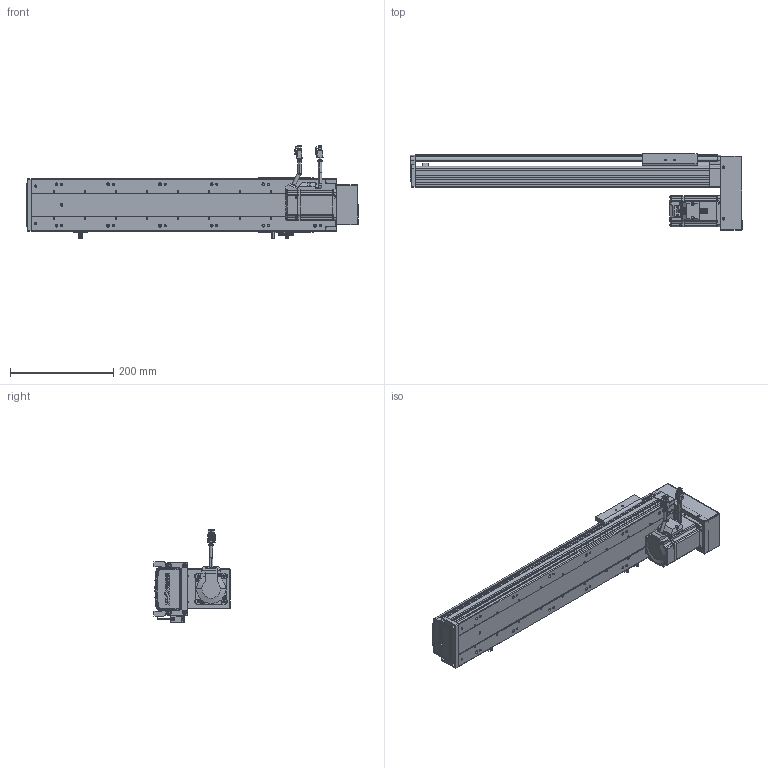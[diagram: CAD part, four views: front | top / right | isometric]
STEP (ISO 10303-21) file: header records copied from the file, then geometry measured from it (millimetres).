
FILE_DESCRIPTION (( 'STEP AP203' ), '1' );
FILE_NAME ('RY100S-L1620-300-BK(15双轨).SLDASM_400.step', '2021-02-20T08:23:01', ( '盈信电脑' ), ( '东莞市道滘镇水果街19号' ), 'SwSTEP 2.0', 'SolidWorks 2012', '' );
FILE_SCHEMA (( 'CONFIG_CONTROL_DESIGN' ));
Length unit declared in the file: millimetre
Products named in the file (26): RY100S下折电机安装板（15双轨）; RY100S-狟殏萇儂郪; RY100S-L1620-300-BK(15邧寢).SLDASM_400; 肮祭湍5M遵15笚酗260; 7; 侂狟200W萇儂; 6; 4; 5; 3; 2; RY100S狟殏萇儂欶(15邧寢); 1; RY80肮祭湍覃踡啣; 3M30喘15遵; RY80肮祭湍芢雄輸; RY100綴裔啣; RY100S-絳寢EGH15-350-LK(腴郪15邧寢)_400; 滅袉蝶18-24; 滅袉蝶18-10; RY100S转折电机端支撑座(15双轨); RY100俋离覜茼え; RY100S-300-LK转折型材上盖(15双轨)_400; RY100S铝滑块（15双轨单滑块）底组装导轨; RY100S-350-LK型材底座(低组15双轨)_400; 覜茼ん672
Assembly tree (28 placements, depth 4):
  RY100S-L1620-300-BK(15邧寢).SLDASM_400
    RY100S-350-LK型材底座(低组15双轨)_400
    RY100S-300-LK转折型材上盖(15双轨)_400
    RY100S铝滑块（15双轨单滑块）底组装导轨
    覜茼ん672  x3
    滅袉蝶18-10
    RY100俋离覜茼え
    RY100S转折电机端支撑座(15双轨)
    滅袉蝶18-24
    RY100綴裔啣
    RY100S-絳寢EGH15-350-LK(腴郪15邧寢)_400
    RY100S-狟殏萇儂郪
      RY80肮祭湍芢雄輸  x2
      RY100S狟殏萇儂欶(15邧寢)
      3M30喘15遵
      RY80肮祭湍覃踡啣
      侂狟200W萇儂
        1
        2
        3
        4
        5
        6
        7
      肮祭湍5M遵15笚酗260
      RY100S下折电机安装板（15双轨）
Bounding box: 642 x 147 x 179.5 mm (x, y, z)
Volume: 1827343.2 mm3; surface area: 694734.3 mm2
Topology: 26 solids, 26 shells, 3237 faces, 8697 edges, 5606 vertices
Faces by surface type: plane 1711, cylinder 1243, cone 169, bspline 114
Entity records: 105056 total; most frequent: CARTESIAN_POINT 25926, ORIENTED_EDGE 16098, DIRECTION 15662, EDGE_CURVE 8049, AXIS2_PLACEMENT_3D 5343, VERTEX_POINT 5242, LINE 4976, VECTOR 4976
